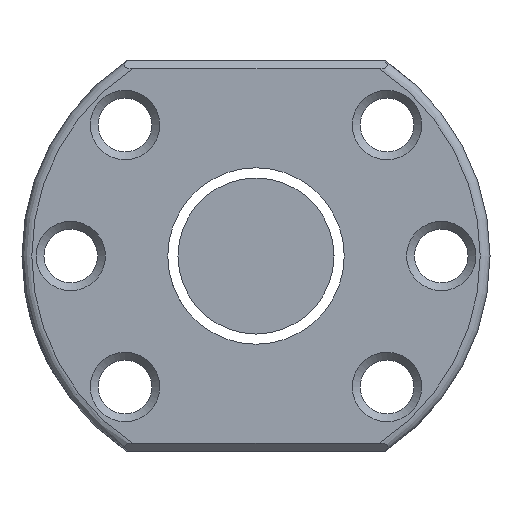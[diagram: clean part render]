
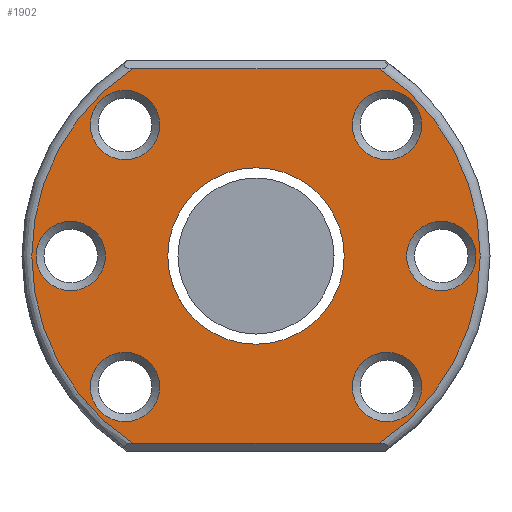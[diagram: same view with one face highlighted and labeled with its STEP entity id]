
A CAD part, left-side view. The second image highlights one B-rep face of the part: STEP entity #1902.
In plain terms, the highlighted planar face has unit normal (-1, 0, 0).
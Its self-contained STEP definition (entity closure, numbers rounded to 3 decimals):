
#19 = CARTESIAN_POINT ( 'NONE',  ( -57., -19., 0. ) ) ;
#33 = CIRCLE ( 'NONE', #1411, 3.55 ) ;
#101 = DIRECTION ( 'NONE',  ( 1., 0., 0. ) ) ;
#145 = EDGE_LOOP ( 'NONE', ( #2669, #1439, #1455, #2698 ) ) ;
#162 = DIRECTION ( 'NONE',  ( 0., -1., 0. ) ) ;
#183 = DIRECTION ( 'NONE',  ( 0., -1., 0. ) ) ;
#219 = VERTEX_POINT ( 'NONE', #1636 ) ;
#230 = CIRCLE ( 'NONE', #2368, 23. ) ;
#232 = ORIENTED_EDGE ( 'NONE', *, *, #1844, .T. ) ;
#293 = ORIENTED_EDGE ( 'NONE', *, *, #1440, .T. ) ;
#336 = CARTESIAN_POINT ( 'NONE',  ( -57., -12.663, 19.2 ) ) ;
#343 = AXIS2_PLACEMENT_3D ( 'NONE', #1630, #2597, #657 ) ;
#360 = DIRECTION ( 'NONE',  ( 1., 0., 0. ) ) ;
#381 = DIRECTION ( 'NONE',  ( 0., 1., 0. ) ) ;
#384 = CARTESIAN_POINT ( 'NONE',  ( -57., 9.885, 13.435 ) ) ;
#433 = DIRECTION ( 'NONE',  ( 0., 1., 0. ) ) ;
#434 = CIRCLE ( 'NONE', #1760, 3.55 ) ;
#448 = CARTESIAN_POINT ( 'NONE',  ( -57., 0., 0. ) ) ;
#458 = CARTESIAN_POINT ( 'NONE',  ( -57., 9.885, -13.435 ) ) ;
#463 = LINE ( 'NONE', #2343, #3095 ) ;
#490 = EDGE_LOOP ( 'NONE', ( #2049 ) ) ;
#566 = VERTEX_POINT ( 'NONE', #336 ) ;
#605 = VERTEX_POINT ( 'NONE', #1582 ) ;
#629 = DIRECTION ( 'NONE',  ( 0., -1., 0. ) ) ;
#646 = FACE_BOUND ( 'NONE', #2622, .T. ) ;
#657 = DIRECTION ( 'NONE',  ( 0., -1., 0. ) ) ;
#658 = DIRECTION ( 'NONE',  ( -1., 0., 0. ) ) ;
#668 = DIRECTION ( 'NONE',  ( -1., 0., 0. ) ) ;
#759 = ORIENTED_EDGE ( 'NONE', *, *, #2029, .T. ) ;
#784 = EDGE_LOOP ( 'NONE', ( #293 ) ) ;
#791 = FACE_BOUND ( 'NONE', #1065, .T. ) ;
#797 = AXIS2_PLACEMENT_3D ( 'NONE', #3063, #1369, #629 ) ;
#869 = FACE_BOUND ( 'NONE', #784, .T. ) ;
#892 = EDGE_CURVE ( 'NONE', #566, #910, #2544, .T. ) ;
#895 = CIRCLE ( 'NONE', #2422, 9.05 ) ;
#904 = VERTEX_POINT ( 'NONE', #458 ) ;
#910 = VERTEX_POINT ( 'NONE', #3019 ) ;
#918 = VERTEX_POINT ( 'NONE', #2851 ) ;
#926 = EDGE_LOOP ( 'NONE', ( #1447 ) ) ;
#927 = CARTESIAN_POINT ( 'NONE',  ( -57., 0., 0. ) ) ;
#929 = FACE_BOUND ( 'NONE', #2434, .T. ) ;
#946 = DIRECTION ( 'NONE',  ( 0., -1., 0. ) ) ;
#956 = DIRECTION ( 'NONE',  ( 0., -1., 0. ) ) ;
#1065 = EDGE_LOOP ( 'NONE', ( #759 ) ) ;
#1093 = DIRECTION ( 'NONE',  ( -1., 0., 0. ) ) ;
#1103 = VERTEX_POINT ( 'NONE', #2079 ) ;
#1140 = EDGE_CURVE ( 'NONE', #605, #605, #2991, .T. ) ;
#1163 = CARTESIAN_POINT ( 'NONE',  ( -57., 12.663, -19.2 ) ) ;
#1166 = DIRECTION ( 'NONE',  ( 1., 0., 0. ) ) ;
#1283 = ORIENTED_EDGE ( 'NONE', *, *, #1539, .T. ) ;
#1337 = EDGE_CURVE ( 'NONE', #2454, #566, #230, .T. ) ;
#1360 = CIRCLE ( 'NONE', #3141, 23. ) ;
#1369 = DIRECTION ( 'NONE',  ( 1., 0., 0. ) ) ;
#1411 = AXIS2_PLACEMENT_3D ( 'NONE', #2817, #1922, #946 ) ;
#1439 = ORIENTED_EDGE ( 'NONE', *, *, #1337, .T. ) ;
#1440 = EDGE_CURVE ( 'NONE', #1103, #1103, #895, .T. ) ;
#1447 = ORIENTED_EDGE ( 'NONE', *, *, #1140, .T. ) ;
#1455 = ORIENTED_EDGE ( 'NONE', *, *, #892, .T. ) ;
#1511 = AXIS2_PLACEMENT_3D ( 'NONE', #1606, #101, #2326 ) ;
#1539 = EDGE_CURVE ( 'NONE', #1594, #1594, #2525, .T. ) ;
#1582 = CARTESIAN_POINT ( 'NONE',  ( -57., -22.55, 0. ) ) ;
#1594 = VERTEX_POINT ( 'NONE', #384 ) ;
#1606 = CARTESIAN_POINT ( 'NONE',  ( -57., 19., 0. ) ) ;
#1618 = CARTESIAN_POINT ( 'NONE',  ( -57., 24., 0. ) ) ;
#1630 = CARTESIAN_POINT ( 'NONE',  ( -57., 13.435, 13.435 ) ) ;
#1636 = CARTESIAN_POINT ( 'NONE',  ( -57., -16.985, -13.435 ) ) ;
#1651 = VERTEX_POINT ( 'NONE', #2881 ) ;
#1655 = VECTOR ( 'NONE', #381, 1000. ) ;
#1760 = AXIS2_PLACEMENT_3D ( 'NONE', #2536, #360, #2301 ) ;
#1764 = FACE_BOUND ( 'NONE', #3118, .T. ) ;
#1844 = EDGE_CURVE ( 'NONE', #918, #918, #434, .T. ) ;
#1859 = AXIS2_PLACEMENT_3D ( 'NONE', #19, #1987, #2962 ) ;
#1902 = ADVANCED_FACE ( 'NONE', ( #791, #1764, #2741, #646, #929, #2861, #2584, #869 ), #1903, .T. ) ;
#1903 = PLANE ( 'NONE',  #3045 ) ;
#1922 = DIRECTION ( 'NONE',  ( 1., 0., 0. ) ) ;
#1931 = CARTESIAN_POINT ( 'NONE',  ( -57., -12.663, -19.2 ) ) ;
#1987 = DIRECTION ( 'NONE',  ( 1., 0., 0. ) ) ;
#2029 = EDGE_CURVE ( 'NONE', #904, #904, #2171, .T. ) ;
#2049 = ORIENTED_EDGE ( 'NONE', *, *, #3135, .T. ) ;
#2062 = EDGE_CURVE ( 'NONE', #219, #219, #33, .T. ) ;
#2079 = CARTESIAN_POINT ( 'NONE',  ( -57., 9.05, 0. ) ) ;
#2080 = CIRCLE ( 'NONE', #1511, 3.55 ) ;
#2171 = CIRCLE ( 'NONE', #797, 3.55 ) ;
#2301 = DIRECTION ( 'NONE',  ( 0., -1., 0. ) ) ;
#2316 = DIRECTION ( 'NONE',  ( 0., -1., 0. ) ) ;
#2326 = DIRECTION ( 'NONE',  ( 0., -1., 0. ) ) ;
#2331 = CARTESIAN_POINT ( 'NONE',  ( -57., 0., 0. ) ) ;
#2343 = CARTESIAN_POINT ( 'NONE',  ( -57., -13.266, -19.2 ) ) ;
#2350 = EDGE_CURVE ( 'NONE', #2391, #2454, #463, .T. ) ;
#2368 = AXIS2_PLACEMENT_3D ( 'NONE', #2331, #1093, #2316 ) ;
#2369 = EDGE_CURVE ( 'NONE', #910, #2391, #1360, .T. ) ;
#2391 = VERTEX_POINT ( 'NONE', #1163 ) ;
#2422 = AXIS2_PLACEMENT_3D ( 'NONE', #927, #1166, #433 ) ;
#2434 = EDGE_LOOP ( 'NONE', ( #1283 ) ) ;
#2454 = VERTEX_POINT ( 'NONE', #1931 ) ;
#2525 = CIRCLE ( 'NONE', #343, 3.55 ) ;
#2536 = CARTESIAN_POINT ( 'NONE',  ( -57., -13.435, 13.435 ) ) ;
#2544 = LINE ( 'NONE', #2557, #1655 ) ;
#2557 = CARTESIAN_POINT ( 'NONE',  ( -57., 13.266, 19.2 ) ) ;
#2584 = FACE_OUTER_BOUND ( 'NONE', #145, .T. ) ;
#2597 = DIRECTION ( 'NONE',  ( 1., 0., 0. ) ) ;
#2622 = EDGE_LOOP ( 'NONE', ( #232 ) ) ;
#2669 = ORIENTED_EDGE ( 'NONE', *, *, #2350, .T. ) ;
#2698 = ORIENTED_EDGE ( 'NONE', *, *, #2369, .T. ) ;
#2741 = FACE_BOUND ( 'NONE', #926, .T. ) ;
#2817 = CARTESIAN_POINT ( 'NONE',  ( -57., -13.435, -13.435 ) ) ;
#2851 = CARTESIAN_POINT ( 'NONE',  ( -57., -16.985, 13.435 ) ) ;
#2861 = FACE_BOUND ( 'NONE', #490, .T. ) ;
#2881 = CARTESIAN_POINT ( 'NONE',  ( -57., 15.45, 0. ) ) ;
#2962 = DIRECTION ( 'NONE',  ( 0., -1., 0. ) ) ;
#2973 = ORIENTED_EDGE ( 'NONE', *, *, #2062, .T. ) ;
#2991 = CIRCLE ( 'NONE', #1859, 3.55 ) ;
#3019 = CARTESIAN_POINT ( 'NONE',  ( -57., 12.663, 19.2 ) ) ;
#3045 = AXIS2_PLACEMENT_3D ( 'NONE', #1618, #658, #183 ) ;
#3063 = CARTESIAN_POINT ( 'NONE',  ( -57., 13.435, -13.435 ) ) ;
#3095 = VECTOR ( 'NONE', #162, 1000. ) ;
#3118 = EDGE_LOOP ( 'NONE', ( #2973 ) ) ;
#3135 = EDGE_CURVE ( 'NONE', #1651, #1651, #2080, .T. ) ;
#3141 = AXIS2_PLACEMENT_3D ( 'NONE', #448, #668, #956 ) ;
